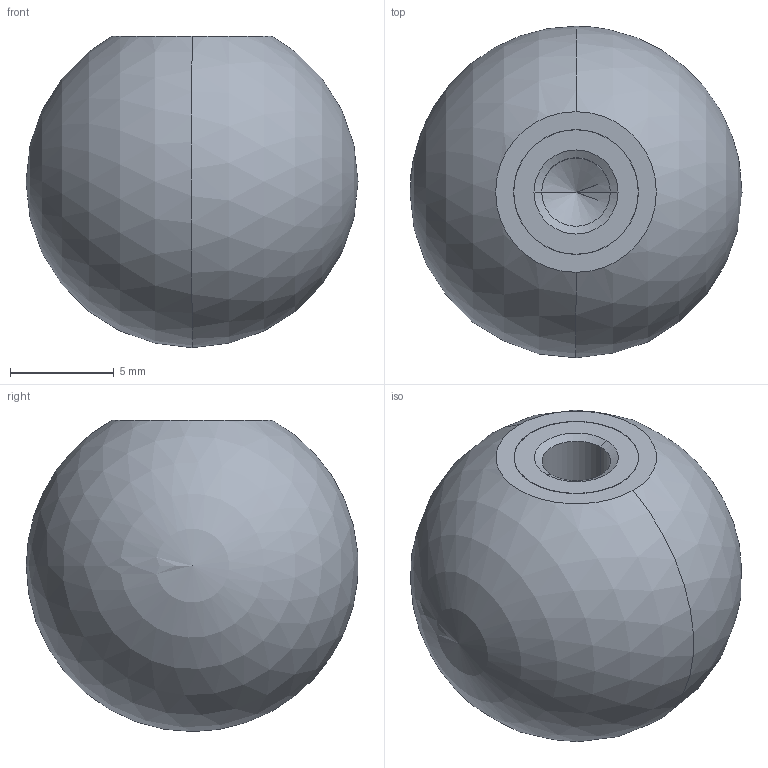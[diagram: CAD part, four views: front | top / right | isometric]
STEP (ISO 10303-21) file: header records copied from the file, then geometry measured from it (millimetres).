
FILE_DESCRIPTION (( 'STEP AP214' ), '1' );
FILE_NAME ('319-KT-16-M4-E.step', '2020-09-03T11:13:35', ( '' ), ( '' ), 'SwSTEP 2.0', 'SolidWorks 2019', '' );
FILE_SCHEMA (( 'AUTOMOTIVE_DESIGN' ));
Length unit declared in the file: millimetre
Products named in the file (1): 319-KT-16-M4-E
Bounding box: 16 x 15.98 x 15 mm (x, y, z)
Volume: 2048.9 mm3; surface area: 884.3 mm2
Topology: 1 solids, 1 shells, 15 faces, 35 edges, 21 vertices
Faces by surface type: cylinder 6, cone 4, plane 3, sphere 2
Entity records: 528 total; most frequent: DIRECTION 78, CARTESIAN_POINT 62, ORIENTED_EDGE 56, AXIS2_PLACEMENT_3D 34, EDGE_CURVE 28, VERTEX_POINT 18, CIRCLE 18, EDGE_LOOP 18
